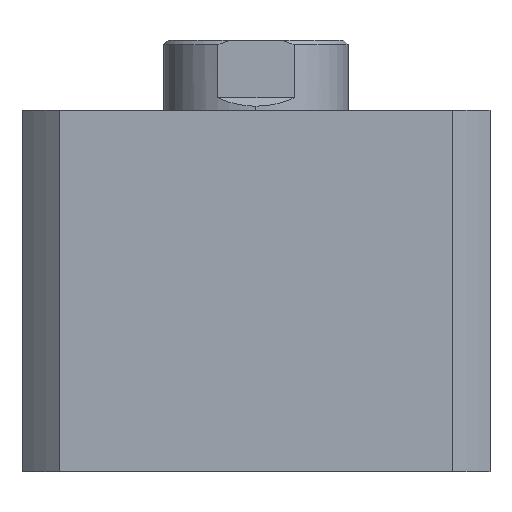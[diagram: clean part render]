
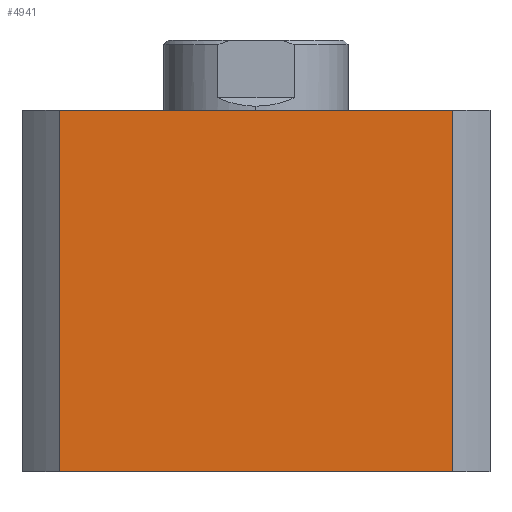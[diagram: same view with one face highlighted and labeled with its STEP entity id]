
A CAD part, left-side view. The second image highlights one B-rep face of the part: STEP entity #4941.
In plain terms, the highlighted planar face has unit normal (-1, 0, 0).
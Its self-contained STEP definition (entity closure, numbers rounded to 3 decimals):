
#7 = DIRECTION ( 'NONE',  ( 0., 0., -1. ) ) ;
#8 = DIRECTION ( 'NONE',  ( 1., 0., 0. ) ) ;
#11 = PLANE ( 'NONE',  #1818 ) ;
#16 = CARTESIAN_POINT ( 'NONE',  ( -57., 0., 88. ) ) ;
#353 = DIRECTION ( 'NONE',  ( 0., -1., 0. ) ) ;
#356 = CARTESIAN_POINT ( 'NONE',  ( -57., 0., 88. ) ) ;
#385 = DIRECTION ( 'NONE',  ( 0., 0., -1. ) ) ;
#386 = CARTESIAN_POINT ( 'NONE',  ( -57., 47.971, 88. ) ) ;
#402 = DIRECTION ( 'NONE',  ( 0., 0., -1. ) ) ;
#403 = CARTESIAN_POINT ( 'NONE',  ( -57., -47.971, 88. ) ) ;
#532 = EDGE_LOOP ( 'NONE', ( #2529, #2534, #1301, #2531 ) ) ;
#1025 = EDGE_CURVE ( 'NONE', #4359, #4422, #4620, .T. ) ;
#1062 = EDGE_CURVE ( 'NONE', #4482, #4359, #4665, .T. ) ;
#1064 = EDGE_CURVE ( 'NONE', #4490, #4422, #4669, .T. ) ;
#1065 = EDGE_CURVE ( 'NONE', #4482, #4490, #4670, .T. ) ;
#1301 = ORIENTED_EDGE ( 'NONE', *, *, #1065, .F. ) ;
#1818 = AXIS2_PLACEMENT_3D ( 'NONE', #16, #8, #7 ) ;
#2075 = CARTESIAN_POINT ( 'NONE',  ( -57., 0., 0. ) ) ;
#2076 = DIRECTION ( 'NONE',  ( 0., -1., 0. ) ) ;
#2529 = ORIENTED_EDGE ( 'NONE', *, *, #1025, .T. ) ;
#2531 = ORIENTED_EDGE ( 'NONE', *, *, #1062, .T. ) ;
#2534 = ORIENTED_EDGE ( 'NONE', *, *, #1064, .F. ) ;
#3182 = CARTESIAN_POINT ( 'NONE',  ( -57., -47.971, 0. ) ) ;
#3210 = CARTESIAN_POINT ( 'NONE',  ( -57., -47.971, 88. ) ) ;
#3218 = CARTESIAN_POINT ( 'NONE',  ( -57., 47.971, 88. ) ) ;
#3258 = FACE_OUTER_BOUND ( 'NONE', #532, .T. ) ;
#3551 = CARTESIAN_POINT ( 'NONE',  ( -57., 47.971, 0. ) ) ;
#4359 = VERTEX_POINT ( 'NONE', #3551 ) ;
#4422 = VERTEX_POINT ( 'NONE', #3182 ) ;
#4482 = VERTEX_POINT ( 'NONE', #3218 ) ;
#4490 = VERTEX_POINT ( 'NONE', #3210 ) ;
#4620 = LINE ( 'NONE', #2075, #4624 ) ;
#4624 = VECTOR ( 'NONE', #2076, 1000. ) ;
#4665 = LINE ( 'NONE', #386, #4668 ) ;
#4668 = VECTOR ( 'NONE', #385, 1000. ) ;
#4669 = LINE ( 'NONE', #403, #4671 ) ;
#4670 = LINE ( 'NONE', #356, #4673 ) ;
#4671 = VECTOR ( 'NONE', #402, 1000. ) ;
#4673 = VECTOR ( 'NONE', #353, 1000. ) ;
#4941 = ADVANCED_FACE ( 'NONE', ( #3258 ), #11, .F. ) ;
